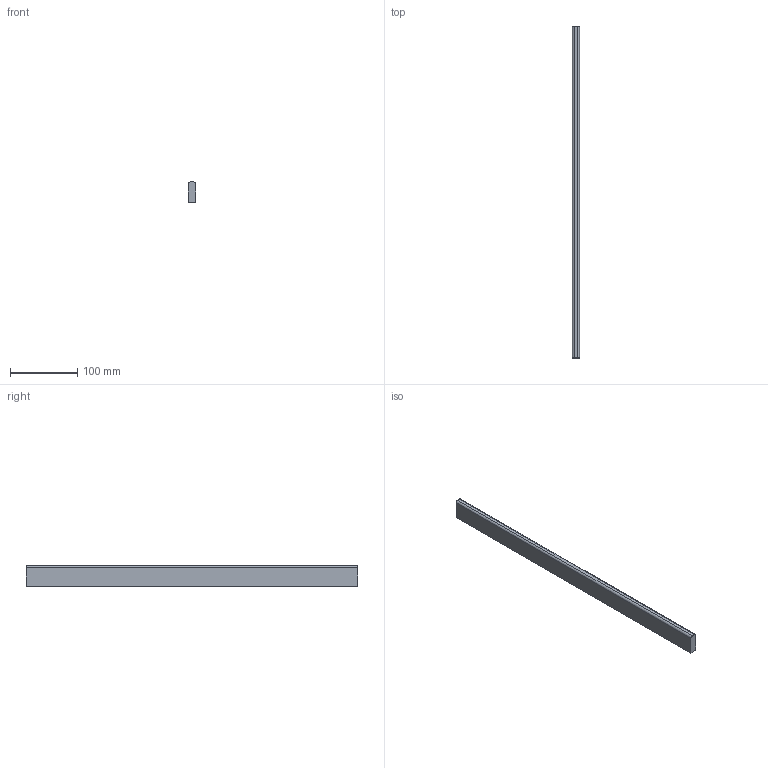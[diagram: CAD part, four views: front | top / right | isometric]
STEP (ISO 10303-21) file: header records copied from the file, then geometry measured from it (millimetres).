
FILE_DESCRIPTION (( 'STEP AP214' ), '1' );
FILE_NAME ('_Seitenreling_SP60700300_RL495.step', '2010-09-06T14:52:16', ( 'grass' ), ( '' ), 'SwSTEP 2.0', 'SolidWorks 2010', '' );
FILE_SCHEMA (( 'AUTOMOTIVE_DESIGN' ));
Length unit declared in the file: millimetre
Products named in the file (1): _Seitenreling_SP60700300_RL495
Bounding box: 10.5 x 495 x 30 mm (x, y, z)
Volume: 154012.9 mm3; surface area: 39442.5 mm2
Topology: 1 solids, 1 shells, 8 faces, 18 edges, 12 vertices
Faces by surface type: plane 6, cylinder 2
Entity records: 260 total; most frequent: DIRECTION 40, CARTESIAN_POINT 39, ORIENTED_EDGE 36, EDGE_CURVE 18, LINE 14, VECTOR 14, AXIS2_PLACEMENT_3D 13, VERTEX_POINT 12
